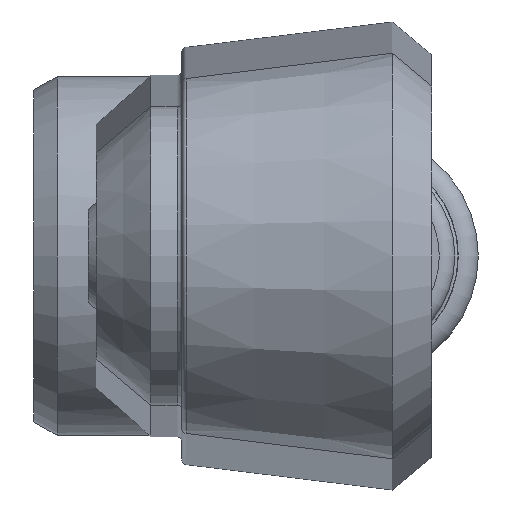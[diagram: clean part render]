
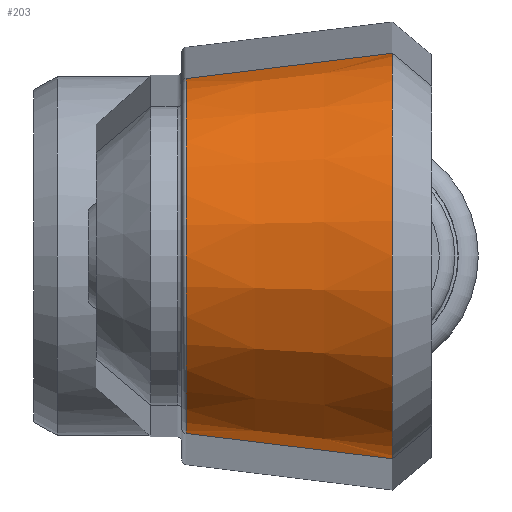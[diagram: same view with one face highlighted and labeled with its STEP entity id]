
A CAD part, front view. The second image highlights one B-rep face of the part: STEP entity #203.
In plain terms, the highlighted conical face has half-angle 7 degrees and reference radius 13 mm.
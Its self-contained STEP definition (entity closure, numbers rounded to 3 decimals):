
#203 = ADVANCED_FACE( '', ( #347 ), #348, .T. );
#347 = FACE_OUTER_BOUND( '', #630, .T. );
#348 = CONICAL_SURFACE( '', #631, 13., 0.122 );
#630 = EDGE_LOOP( '', ( #1048, #1049, #1050, #1051 ) );
#631 = AXIS2_PLACEMENT_3D( '', #1052, #1053, #1054 );
#1048 = ORIENTED_EDGE( '', *, *, #1653, .F. );
#1049 = ORIENTED_EDGE( '', *, *, #1636, .F. );
#1050 = ORIENTED_EDGE( '', *, *, #1654, .T. );
#1051 = ORIENTED_EDGE( '', *, *, #1650, .T. );
#1052 = CARTESIAN_POINT( '', ( 13.996, -80., 0. ) );
#1053 = DIRECTION( '', ( 1., 0., 0. ) );
#1054 = DIRECTION( '', ( 0., 0., -1. ) );
#1636 = EDGE_CURVE( '', #1945, #1947, #1948, .T. );
#1650 = EDGE_CURVE( '', #1956, #1971, #1973, .T. );
#1653 = EDGE_CURVE( '', #1947, #1971, #1976, .T. );
#1654 = EDGE_CURVE( '', #1945, #1956, #1977, .T. );
#1945 = VERTEX_POINT( '', #2460 );
#1947 = VERTEX_POINT( '', #2463 );
#1948 = B_SPLINE_CURVE_WITH_KNOTS( '', 3, ( #2464, #2465, #2466, #2467 ), .UNSPECIFIED., .F., .F., ( 4, 4 ), ( 0., 0.778 ), .UNSPECIFIED. );
#1956 = VERTEX_POINT( '', #2489 );
#1971 = VERTEX_POINT( '', #2528 );
#1973 = B_SPLINE_CURVE_WITH_KNOTS( '', 3, ( #2533, #2534, #2535, #2536 ), .UNSPECIFIED., .F., .F., ( 4, 4 ), ( 0., 1. ), .UNSPECIFIED. );
#1976 = CIRCLE( '', #2539, 11.375 );
#1977 = CIRCLE( '', #2540, 13. );
#2460 = CARTESIAN_POINT( '', ( 13.996, -80., -13. ) );
#2463 = CARTESIAN_POINT( '', ( 0.763, -80., -11.375 ) );
#2464 = CARTESIAN_POINT( '', ( 13.996, -80., -13. ) );
#2465 = CARTESIAN_POINT( '', ( 9.585, -80., -12.458 ) );
#2466 = CARTESIAN_POINT( '', ( 5.174, -80., -11.917 ) );
#2467 = CARTESIAN_POINT( '', ( 0.763, -80., -11.375 ) );
#2489 = CARTESIAN_POINT( '', ( 13.996, -80., 13. ) );
#2528 = CARTESIAN_POINT( '', ( 0.763, -80., 11.375 ) );
#2533 = CARTESIAN_POINT( '', ( 13.996, -80., 13. ) );
#2534 = CARTESIAN_POINT( '', ( 9.585, -80., 12.458 ) );
#2535 = CARTESIAN_POINT( '', ( 5.174, -80., 11.917 ) );
#2536 = CARTESIAN_POINT( '', ( 0.763, -80., 11.375 ) );
#2539 = AXIS2_PLACEMENT_3D( '', #2934, #2935, #2936 );
#2540 = AXIS2_PLACEMENT_3D( '', #2937, #2938, #2939 );
#2934 = CARTESIAN_POINT( '', ( 0.763, -80., 0. ) );
#2935 = DIRECTION( '', ( -1., 0., 0. ) );
#2936 = DIRECTION( '', ( 0., 0., 1. ) );
#2937 = CARTESIAN_POINT( '', ( 13.996, -80., 0. ) );
#2938 = DIRECTION( '', ( -1., 0., 0. ) );
#2939 = DIRECTION( '', ( 0., 0., 1. ) );
